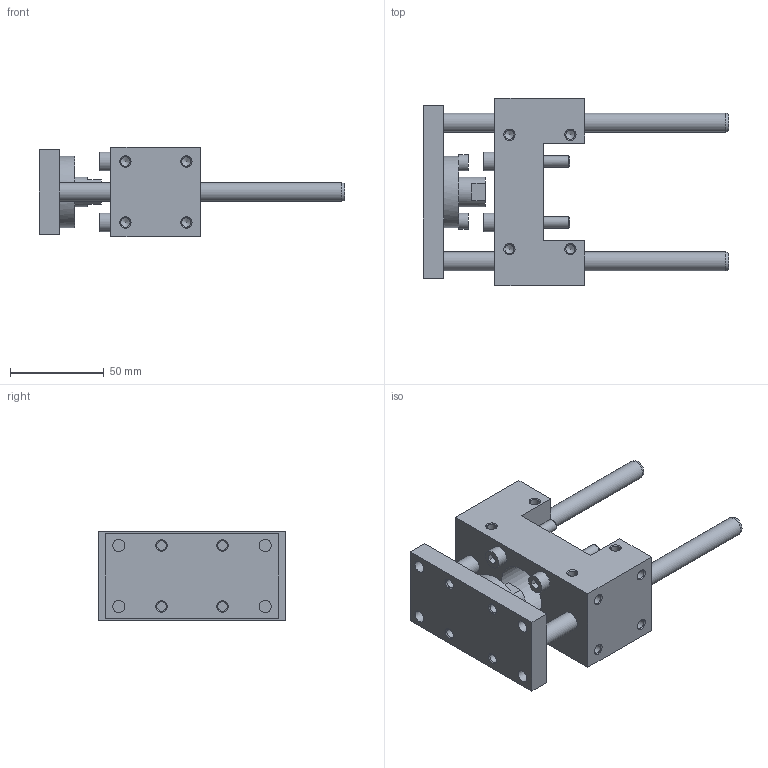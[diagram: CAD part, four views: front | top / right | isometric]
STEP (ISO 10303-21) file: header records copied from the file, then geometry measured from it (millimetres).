
FILE_DESCRIPTION( ( 'STEP AP214' ), '1' );
FILE_NAME( 'U:/Etudes/Top Solid/BIBLIO 3D AVM/TOP/PNEUMATIQUE/GUIDAGES/Type 34 (en U)/_Légère/3441130.step', '2005-05-27T12:19:27', ( ' ' ), ( ' ' ), 'XStep 1.0', ' ', ' ' );
FILE_SCHEMA( ( 'automotive_design' ) );
Length unit declared in the file: metre
Products named in the file (2): 1; 2
Bounding box: 163 x 100 x 48 mm (x, y, z)
Volume: 225566.7 mm3; surface area: 63061.8 mm2
Topology: 2 solids, 5 shells, 207 faces, 500 edges, 327 vertices
Faces by surface type: plane 90, cylinder 72, cone 45
Full cylindrical faces by diameter (mm): 4.134 x4, 4.918 x28, 5 x4, 5.5 x2, 6 x8, 6.5 x8, 8.5 x2, 8.647 x2, 10 x8, 16 x1, 18 x1, 22.8 x1, 25 x1, 30 x1, 38 x1
Entity records: 6811 total; most frequent: CARTESIAN_POINT 993, DIRECTION 882, ORIENTED_EDGE 628, EDGE_LOOP 376, AXIS2_PLACEMENT_3D 365, EDGE_CURVE 314, FACE_OUTER_BOUND 279, VERTEX_POINT 272
